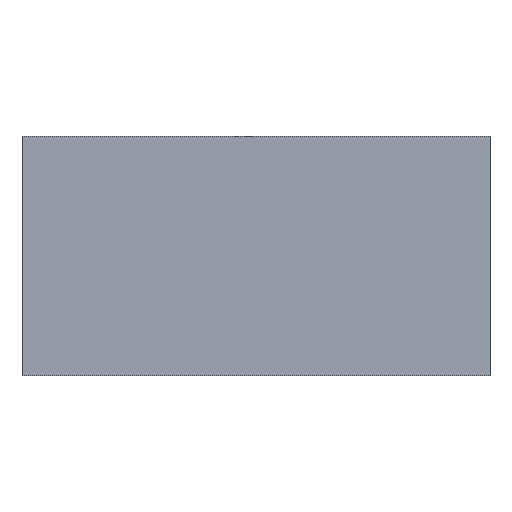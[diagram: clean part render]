
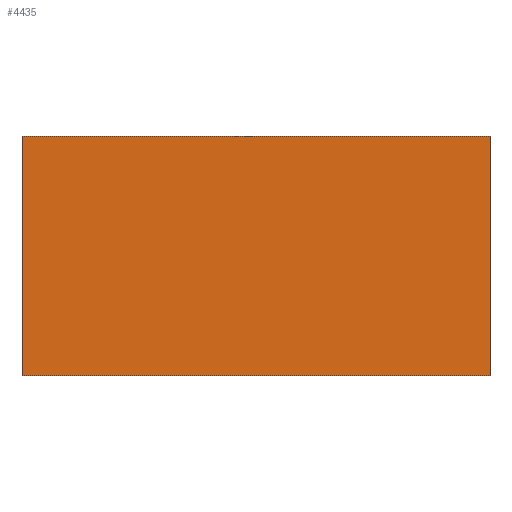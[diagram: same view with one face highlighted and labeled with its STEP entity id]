
A CAD part, left-side view. The second image highlights one B-rep face of the part: STEP entity #4435.
In plain terms, the highlighted planar face has unit normal (-1, 0, 0).
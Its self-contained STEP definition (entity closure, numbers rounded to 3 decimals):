
#2897 = VERTEX_POINT('',#2898);
#2898 = CARTESIAN_POINT('',(-1.,-11.25,-5.75));
#2907 = PLANE('',#2908);
#2908 = AXIS2_PLACEMENT_3D('',#2909,#2910,#2911);
#2909 = CARTESIAN_POINT('',(3.25,0.,-5.75));
#2910 = DIRECTION('',(0.,0.,1.));
#2911 = DIRECTION('',(1.,0.,-0.));
#2919 = PLANE('',#2920);
#2920 = AXIS2_PLACEMENT_3D('',#2921,#2922,#2923);
#2921 = CARTESIAN_POINT('',(-1.,-11.25,0.));
#2922 = DIRECTION('',(0.,-1.,0.));
#2923 = DIRECTION('',(1.,0.,0.));
#2931 = EDGE_CURVE('',#2932,#2897,#2934,.T.);
#2932 = VERTEX_POINT('',#2933);
#2933 = CARTESIAN_POINT('',(-1.,11.25,-5.75));
#2934 = SURFACE_CURVE('',#2935,(#2939,#2946),.PCURVE_S1.);
#2935 = LINE('',#2936,#2937);
#2936 = CARTESIAN_POINT('',(-1.,11.25,-5.75));
#2937 = VECTOR('',#2938,1.);
#2938 = DIRECTION('',(0.,-1.,0.));
#2939 = PCURVE('',#2907,#2940);
#2940 = DEFINITIONAL_REPRESENTATION('',(#2941),#2945);
#2941 = LINE('',#2942,#2943);
#2942 = CARTESIAN_POINT('',(-4.25,11.25));
#2943 = VECTOR('',#2944,1.);
#2944 = DIRECTION('',(0.,-1.));
#2945 = ( GEOMETRIC_REPRESENTATION_CONTEXT(2) 
PARAMETRIC_REPRESENTATION_CONTEXT() REPRESENTATION_CONTEXT('2D SPACE',''
  ) );
#2946 = PCURVE('',#2947,#2952);
#2947 = PLANE('',#2948);
#2948 = AXIS2_PLACEMENT_3D('',#2949,#2950,#2951);
#2949 = CARTESIAN_POINT('',(-1.,11.25,0.));
#2950 = DIRECTION('',(-1.,0.,0.));
#2951 = DIRECTION('',(0.,-1.,0.));
#2952 = DEFINITIONAL_REPRESENTATION('',(#2953),#2957);
#2953 = LINE('',#2954,#2955);
#2954 = CARTESIAN_POINT('',(0.,-5.75));
#2955 = VECTOR('',#2956,1.);
#2956 = DIRECTION('',(1.,0.));
#2957 = ( GEOMETRIC_REPRESENTATION_CONTEXT(2) 
PARAMETRIC_REPRESENTATION_CONTEXT() REPRESENTATION_CONTEXT('2D SPACE',''
  ) );
#2975 = PLANE('',#2976);
#2976 = AXIS2_PLACEMENT_3D('',#2977,#2978,#2979);
#2977 = CARTESIAN_POINT('',(0.,11.25,0.));
#2978 = DIRECTION('',(0.,1.,0.));
#2979 = DIRECTION('',(-1.,0.,0.));
#3926 = PLANE('',#3927);
#3927 = AXIS2_PLACEMENT_3D('',#3928,#3929,#3930);
#3928 = CARTESIAN_POINT('',(3.25,0.,5.75));
#3929 = DIRECTION('',(0.,0.,1.));
#3930 = DIRECTION('',(1.,0.,-0.));
#4435 = ADVANCED_FACE('',(#4436),#2947,.T.);
#4436 = FACE_BOUND('',#4437,.T.);
#4437 = EDGE_LOOP('',(#4438,#4461,#4484,#4505));
#4438 = ORIENTED_EDGE('',*,*,#4439,.F.);
#4439 = EDGE_CURVE('',#4440,#2897,#4442,.T.);
#4440 = VERTEX_POINT('',#4441);
#4441 = CARTESIAN_POINT('',(-1.,-11.25,5.75));
#4442 = SURFACE_CURVE('',#4443,(#4447,#4454),.PCURVE_S1.);
#4443 = LINE('',#4444,#4445);
#4444 = CARTESIAN_POINT('',(-1.,-11.25,0.));
#4445 = VECTOR('',#4446,1.);
#4446 = DIRECTION('',(0.,0.,-1.));
#4447 = PCURVE('',#2947,#4448);
#4448 = DEFINITIONAL_REPRESENTATION('',(#4449),#4453);
#4449 = LINE('',#4450,#4451);
#4450 = CARTESIAN_POINT('',(22.5,0.));
#4451 = VECTOR('',#4452,1.);
#4452 = DIRECTION('',(0.,-1.));
#4453 = ( GEOMETRIC_REPRESENTATION_CONTEXT(2) 
PARAMETRIC_REPRESENTATION_CONTEXT() REPRESENTATION_CONTEXT('2D SPACE',''
  ) );
#4454 = PCURVE('',#2919,#4455);
#4455 = DEFINITIONAL_REPRESENTATION('',(#4456),#4460);
#4456 = LINE('',#4457,#4458);
#4457 = CARTESIAN_POINT('',(0.,0.));
#4458 = VECTOR('',#4459,1.);
#4459 = DIRECTION('',(0.,-1.));
#4460 = ( GEOMETRIC_REPRESENTATION_CONTEXT(2) 
PARAMETRIC_REPRESENTATION_CONTEXT() REPRESENTATION_CONTEXT('2D SPACE',''
  ) );
#4461 = ORIENTED_EDGE('',*,*,#4462,.F.);
#4462 = EDGE_CURVE('',#4463,#4440,#4465,.T.);
#4463 = VERTEX_POINT('',#4464);
#4464 = CARTESIAN_POINT('',(-1.,11.25,5.75));
#4465 = SURFACE_CURVE('',#4466,(#4470,#4477),.PCURVE_S1.);
#4466 = LINE('',#4467,#4468);
#4467 = CARTESIAN_POINT('',(-1.,11.25,5.75));
#4468 = VECTOR('',#4469,1.);
#4469 = DIRECTION('',(0.,-1.,0.));
#4470 = PCURVE('',#2947,#4471);
#4471 = DEFINITIONAL_REPRESENTATION('',(#4472),#4476);
#4472 = LINE('',#4473,#4474);
#4473 = CARTESIAN_POINT('',(0.,5.75));
#4474 = VECTOR('',#4475,1.);
#4475 = DIRECTION('',(1.,0.));
#4476 = ( GEOMETRIC_REPRESENTATION_CONTEXT(2) 
PARAMETRIC_REPRESENTATION_CONTEXT() REPRESENTATION_CONTEXT('2D SPACE',''
  ) );
#4477 = PCURVE('',#3926,#4478);
#4478 = DEFINITIONAL_REPRESENTATION('',(#4479),#4483);
#4479 = LINE('',#4480,#4481);
#4480 = CARTESIAN_POINT('',(-4.25,11.25));
#4481 = VECTOR('',#4482,1.);
#4482 = DIRECTION('',(0.,-1.));
#4483 = ( GEOMETRIC_REPRESENTATION_CONTEXT(2) 
PARAMETRIC_REPRESENTATION_CONTEXT() REPRESENTATION_CONTEXT('2D SPACE',''
  ) );
#4484 = ORIENTED_EDGE('',*,*,#4485,.F.);
#4485 = EDGE_CURVE('',#2932,#4463,#4486,.T.);
#4486 = SURFACE_CURVE('',#4487,(#4491,#4498),.PCURVE_S1.);
#4487 = LINE('',#4488,#4489);
#4488 = CARTESIAN_POINT('',(-1.,11.25,0.));
#4489 = VECTOR('',#4490,1.);
#4490 = DIRECTION('',(0.,0.,1.));
#4491 = PCURVE('',#2947,#4492);
#4492 = DEFINITIONAL_REPRESENTATION('',(#4493),#4497);
#4493 = LINE('',#4494,#4495);
#4494 = CARTESIAN_POINT('',(0.,0.));
#4495 = VECTOR('',#4496,1.);
#4496 = DIRECTION('',(0.,1.));
#4497 = ( GEOMETRIC_REPRESENTATION_CONTEXT(2) 
PARAMETRIC_REPRESENTATION_CONTEXT() REPRESENTATION_CONTEXT('2D SPACE',''
  ) );
#4498 = PCURVE('',#2975,#4499);
#4499 = DEFINITIONAL_REPRESENTATION('',(#4500),#4504);
#4500 = LINE('',#4501,#4502);
#4501 = CARTESIAN_POINT('',(1.,0.));
#4502 = VECTOR('',#4503,1.);
#4503 = DIRECTION('',(0.,1.));
#4504 = ( GEOMETRIC_REPRESENTATION_CONTEXT(2) 
PARAMETRIC_REPRESENTATION_CONTEXT() REPRESENTATION_CONTEXT('2D SPACE',''
  ) );
#4505 = ORIENTED_EDGE('',*,*,#2931,.T.);
